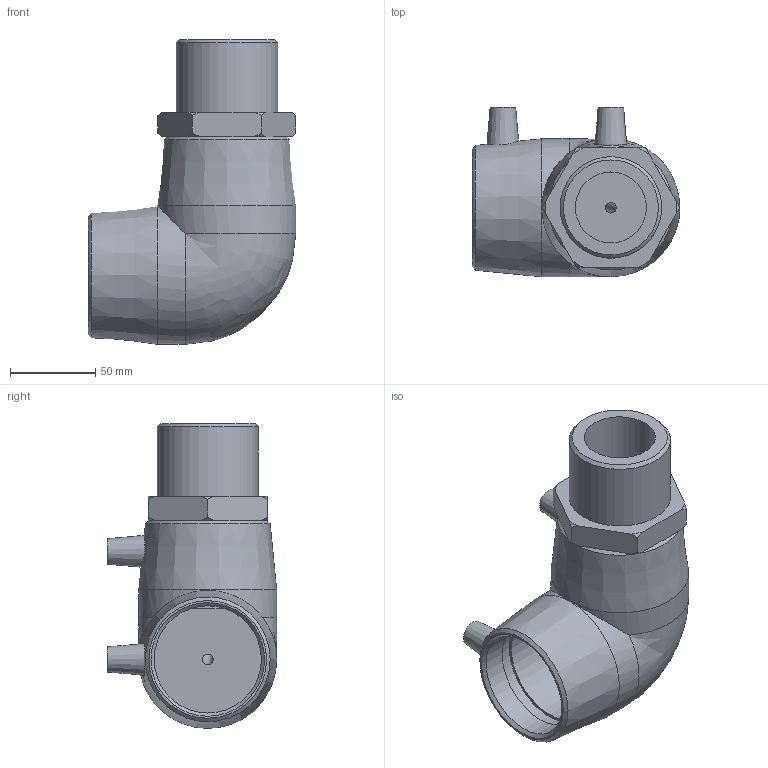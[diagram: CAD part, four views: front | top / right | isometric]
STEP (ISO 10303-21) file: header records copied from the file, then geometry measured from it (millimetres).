
FILE_DESCRIPTION(/* description */ ('PE Male Transition Elbow 90° 63x 1 1_2'),/* implementation_level */ '2;1');
FILE_NAME(/* name */ 'C:\Dropbox\KIMPROJECTS-Inventor\99-16-3568-Processing\ElectroFusion Fittings\21.04\497504\497504063020.ipt.stp',/* time_stamp */ '2019-04-21T15:13:05+03:00',/* author */ ('KIM'),/* organization */ (''),/* preprocessor_version */ 'ST-DEVELOPER v15.6',/* originating_system */ 'Autodesk Inventor 2015',/* authorisation */ '');
FILE_SCHEMA (('AUTOMOTIVE_DESIGN { 1 0 10303 214 3 1 1 }'));
Length unit declared in the file: millimetre
Products named in the file (1): 497504063020
Bounding box: 122 x 99.5 x 179 mm (x, y, z)
Volume: 664080.5 mm3; surface area: 108884 mm2
Topology: 2 solids, 2 shells, 60 faces, 134 edges, 86 vertices
Faces by surface type: plane 22, cone 22, cylinder 14, bspline 1, torus 1
Full cylindrical faces by diameter (mm): 4 x2, 6.3 x1, 10 x2, 41.73 x1, 48 x1, 59.614 x1, 63 x4, 81 x2
Entity records: 1529 total; most frequent: CARTESIAN_POINT 368, DIRECTION 242, ORIENTED_EDGE 192, AXIS2_PLACEMENT_3D 112, EDGE_LOOP 101, EDGE_CURVE 96, VERTEX_POINT 77, FACE_OUTER_BOUND 60
